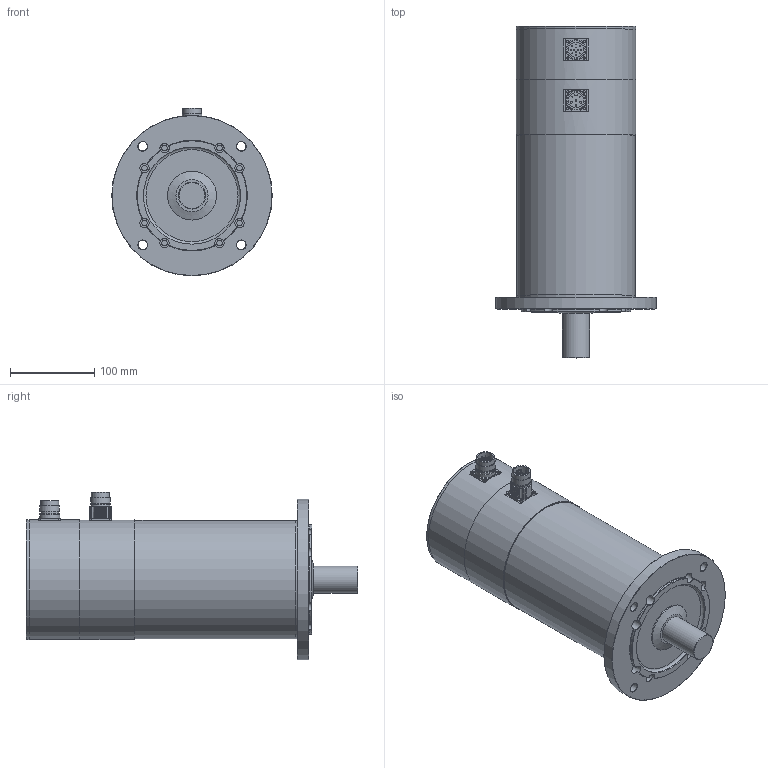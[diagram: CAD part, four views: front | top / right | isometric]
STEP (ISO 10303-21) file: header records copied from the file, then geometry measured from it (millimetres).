
FILE_DESCRIPTION(/* description */ (''),/* implementation_level */ '2;1');
FILE_NAME(/* name */ 'ksy_5616e_md_r4',/* time_stamp */ '2007-03-22T07:32:15+01:00',/* author */ (''),/* organization */ (''),/* preprocessor_version */ 'ST-DEVELOPER v8',/* originating_system */ 'UNIGRAPHICS SOLUTIONS - UNIGRAPHICS 18.0',/* authorisation */ '');
FILE_SCHEMA (('AUTOMOTIVE_DESIGN { 1 2 10303 214 0 1 1 1 }'));
Length unit declared in the file: millimetre
Products named in the file (11): 06333701_0; 014261_0; 014260_0; 064267_0; 064323_0; 115121_0; DIN3760_org_A35x52x7_0; Rotor_SY 56.. E_0; Gehaeuse_SY 56.. E_0; 115115_0; KSY564_E-MD-R4_0
Assembly tree (10 placements, depth 2):
  KSY564_E-MD-R4_0
    115115_0
    Gehaeuse_SY 56.. E_0
    Rotor_SY 56.. E_0
    DIN3760_org_A35x52x7_0
    115121_0
    064323_0
    064267_0
    014260_0
    014261_0
    06333701_0
Bounding box: 190 x 393 x 198.5 mm (x, y, z)
Volume: 4557709.1 mm3; surface area: 411062 mm2
Topology: 10 solids, 10 shells, 323 faces, 812 edges, 521 vertices
Faces by surface type: cylinder 169, plane 81, cone 36, sphere 20, torus 17
Full cylindrical faces by diameter (mm): 1 x16, 2 x4, 2.7 x8, 4.5 x4, 6.6 x8, 8 x4, 11 x12, 18 x2, 20 x4, 21 x2, 21.5 x2, 23 x4, 24 x1, 31.52 x1, 31.95 x1, 32 x1, 35 x2, 35.3 x1, 40 x1, 49 x1, 52 x2, 58 x1, 60 x1, 72 x1, 110 x1, 115 x1, 116.3 x1, 118 x2, 119.3 x1, 120 x1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
Entity records: 8891 total; most frequent: CARTESIAN_POINT 1649, DIRECTION 1600, ORIENTED_EDGE 1114, AXIS2_PLACEMENT_3D 741, EDGE_LOOP 566, EDGE_CURVE 557, VERTEX_POINT 446, CIRCLE 407
